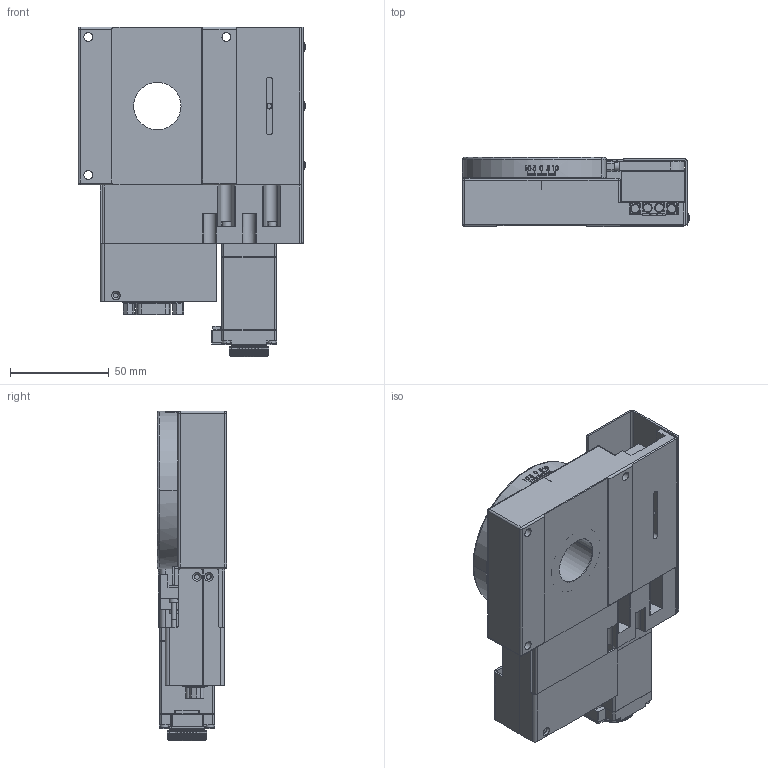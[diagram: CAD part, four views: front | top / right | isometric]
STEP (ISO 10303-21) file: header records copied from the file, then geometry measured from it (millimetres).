
FILE_DESCRIPTION (( 'STEP AP203' ), '1' );
FILE_NAME ('ARH80-A2OPN_defeature.STEP', '2023-11-30T07:39:04', ( '' ), ( '' ), 'SwSTEP 2.0', 'SolidWorks 2019', '' );
FILE_SCHEMA (( 'CONFIG_CONTROL_DESIGN' ));
Products named in the file (4): ARH80-A2OPN_defeature; Group4^ARH80-A2OPN_defeature_GMT; Group2^ARH80-A2OPN_defeature_GMT; Group3^ARH80-A2OPN_defeature_GMT
Assembly tree (3 placements, depth 2):
  ARH80-A2OPN_defeature
    Group2^ARH80-A2OPN_defeature_GMT
    Group3^ARH80-A2OPN_defeature_GMT
    Group4^ARH80-A2OPN_defeature_GMT
Bounding box: 115.13 x 35 x 167.1 mm (x, y, z)
Volume: 380577.4 mm3; surface area: 110610.2 mm2
Topology: 9 solids, 9 shells, 2274 faces, 5953 edges, 3825 vertices
Faces by surface type: plane 1253, cylinder 490, torus 235, bspline 211, cone 71, sphere 14
Entity records: 87588 total; most frequent: CARTESIAN_POINT 33100, ORIENTED_EDGE 11850, DIRECTION 10387, EDGE_CURVE 5925, VERTEX_POINT 3825, AXIS2_PLACEMENT_3D 3569, VECTOR 3249, LINE 3249
